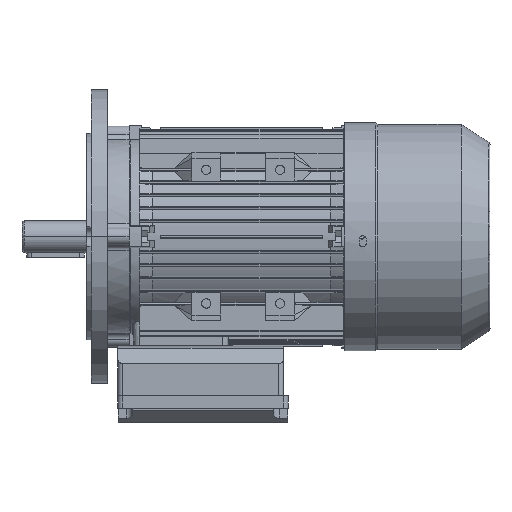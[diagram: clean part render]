
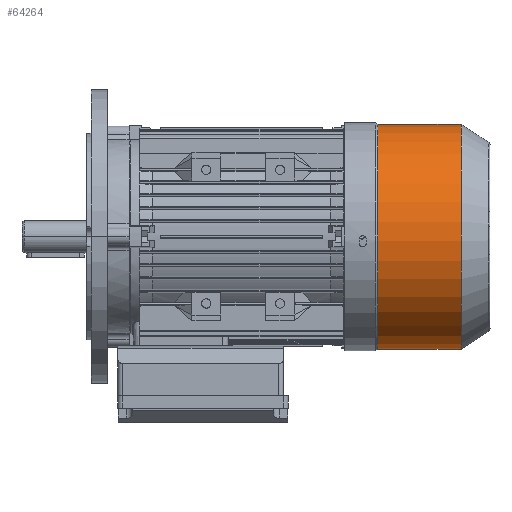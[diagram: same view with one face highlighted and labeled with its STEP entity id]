
A CAD part, left-side view. The second image highlights one B-rep face of the part: STEP entity #64264.
In plain terms, the highlighted cylindrical face has radius 97.588 mm (diameter 195.177 mm), a partial arc.
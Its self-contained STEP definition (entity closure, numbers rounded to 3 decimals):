
#10118 = CYLINDRICAL_SURFACE ( 'NONE', #42364, 97.588 ) ;
#10123 = FACE_OUTER_BOUND ( 'NONE', #11347, .T. ) ;
#11347 = EDGE_LOOP ( 'NONE', ( #15913, #15914, #15915, #15916 ) ) ;
#15780 = EDGE_CURVE ( 'NONE', #56744, #56738, #34726, .T. ) ;
#15782 = EDGE_CURVE ( 'NONE', #57083, #56755, #34732, .T. ) ;
#15847 = EDGE_CURVE ( 'NONE', #56755, #56738, #34808, .T. ) ;
#15848 = EDGE_CURVE ( 'NONE', #56744, #57083, #34806, .T. ) ;
#15913 = ORIENTED_EDGE ( 'NONE', *, *, #15780, .F. ) ;
#15914 = ORIENTED_EDGE ( 'NONE', *, *, #15848, .T. ) ;
#15915 = ORIENTED_EDGE ( 'NONE', *, *, #15782, .T. ) ;
#15916 = ORIENTED_EDGE ( 'NONE', *, *, #15847, .T. ) ;
#25675 = AXIS2_PLACEMENT_3D ( 'NONE', #39283, #39284, #39285 ) ;
#25676 = AXIS2_PLACEMENT_3D ( 'NONE', #39286, #39287, #39288 ) ;
#34726 = LINE ( 'NONE', #38759, #34731 ) ;
#34731 = VECTOR ( 'NONE', #38760, 1000. ) ;
#34732 = LINE ( 'NONE', #38754, #34734 ) ;
#34734 = VECTOR ( 'NONE', #38755, 1000. ) ;
#34806 = CIRCLE ( 'NONE', #25676, 97.588 ) ;
#34808 = CIRCLE ( 'NONE', #25675, 97.588 ) ;
#38754 = CARTESIAN_POINT ( 'NONE',  ( -97.588, 0., 54. ) ) ;
#38755 = DIRECTION ( 'NONE',  ( 0., 0., -1. ) ) ;
#38759 = CARTESIAN_POINT ( 'NONE',  ( 97.588, 0., 54. ) ) ;
#38760 = DIRECTION ( 'NONE',  ( 0., 0., -1. ) ) ;
#39283 = CARTESIAN_POINT ( 'NONE',  ( 0., 0., -4.373 ) ) ;
#39284 = DIRECTION ( 'NONE',  ( 0., 0., 1. ) ) ;
#39285 = DIRECTION ( 'NONE',  ( -1., 0., 0. ) ) ;
#39286 = CARTESIAN_POINT ( 'NONE',  ( 0., 0., 68.043 ) ) ;
#39287 = DIRECTION ( 'NONE',  ( 0., 0., -1. ) ) ;
#39288 = DIRECTION ( 'NONE',  ( -1., 0., 0. ) ) ;
#42364 = AXIS2_PLACEMENT_3D ( 'NONE', #47391, #47392, #47390 ) ;
#47390 = DIRECTION ( 'NONE',  ( -1., 0., 0. ) ) ;
#47391 = CARTESIAN_POINT ( 'NONE',  ( 0., 0., 54. ) ) ;
#47392 = DIRECTION ( 'NONE',  ( 0., 0., -1. ) ) ;
#56738 = VERTEX_POINT ( 'NONE', #72949 ) ;
#56744 = VERTEX_POINT ( 'NONE', #72960 ) ;
#56755 = VERTEX_POINT ( 'NONE', #72980 ) ;
#57083 = VERTEX_POINT ( 'NONE', #73589 ) ;
#64264 = ADVANCED_FACE ( 'NONE', ( #10123 ), #10118, .T. ) ;
#72949 = CARTESIAN_POINT ( 'NONE',  ( 97.588, 0., -4.373 ) ) ;
#72960 = CARTESIAN_POINT ( 'NONE',  ( 97.588, 0., 68.043 ) ) ;
#72980 = CARTESIAN_POINT ( 'NONE',  ( -97.588, 0., -4.373 ) ) ;
#73589 = CARTESIAN_POINT ( 'NONE',  ( -97.588, 0., 68.043 ) ) ;
